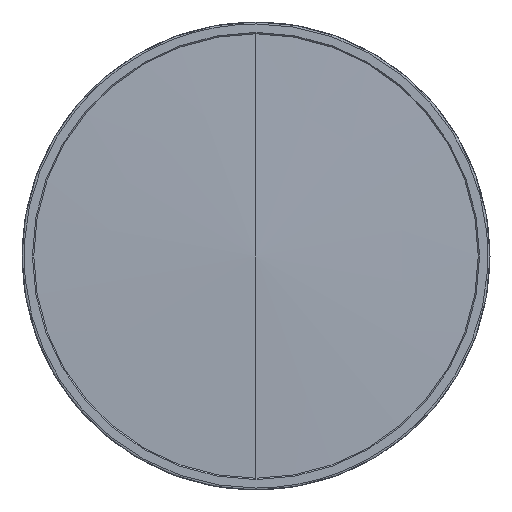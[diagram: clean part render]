
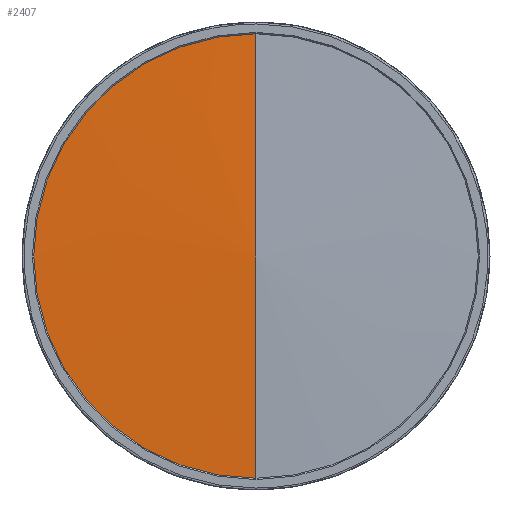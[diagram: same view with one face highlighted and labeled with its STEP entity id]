
A CAD part, left-side view. The second image highlights one B-rep face of the part: STEP entity #2407.
In plain terms, the highlighted conical face has half-angle 88.247 degrees and reference radius 175.434 mm.
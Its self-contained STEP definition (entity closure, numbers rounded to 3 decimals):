
#216 = DIRECTION ( 'NONE',  ( 0.031, 0., 1. ) ) ;
#268 = CARTESIAN_POINT ( 'NONE',  ( 0., 0., 0. ) ) ;
#641 = AXIS2_PLACEMENT_3D ( 'NONE', #6199, #6106, #1032 ) ;
#923 = EDGE_CURVE ( 'NONE', #4828, #6107, #4004, .T. ) ;
#1032 = DIRECTION ( 'NONE',  ( 0., 0., -1. ) ) ;
#1891 = LINE ( 'NONE', #9026, #5574 ) ;
#2069 = DIRECTION ( 'NONE',  ( 1., 0., 0. ) ) ;
#2092 = DIRECTION ( 'NONE',  ( 1., 0., 0. ) ) ;
#2407 = ADVANCED_FACE ( 'NONE', ( #5114 ), #9004, .T. ) ;
#2570 = CARTESIAN_POINT ( 'NONE',  ( 5.203, 0., 170. ) ) ;
#2639 = EDGE_LOOP ( 'NONE', ( #6063, #2711, #7909, #4602 ) ) ;
#2711 = ORIENTED_EDGE ( 'NONE', *, *, #4304, .T. ) ;
#3300 = VECTOR ( 'NONE', #6677, 1000. ) ;
#4004 = LINE ( 'NONE', #8687, #3300 ) ;
#4248 = CARTESIAN_POINT ( 'NONE',  ( 5.203, 0., -170. ) ) ;
#4304 = EDGE_CURVE ( 'NONE', #4828, #6567, #1891, .T. ) ;
#4431 = CIRCLE ( 'NONE', #8730, 170. ) ;
#4602 = ORIENTED_EDGE ( 'NONE', *, *, #7428, .F. ) ;
#4828 = VERTEX_POINT ( 'NONE', #268 ) ;
#4990 = CARTESIAN_POINT ( 'NONE',  ( 5.203, 0., 0. ) ) ;
#5114 = FACE_OUTER_BOUND ( 'NONE', #2639, .T. ) ;
#5270 = CIRCLE ( 'NONE', #7039, 170. ) ;
#5407 = CARTESIAN_POINT ( 'NONE',  ( 5.203, 170., 0. ) ) ;
#5574 = VECTOR ( 'NONE', #216, 1000. ) ;
#6063 = ORIENTED_EDGE ( 'NONE', *, *, #923, .F. ) ;
#6106 = DIRECTION ( 'NONE',  ( 1., 0., 0. ) ) ;
#6107 = VERTEX_POINT ( 'NONE', #4248 ) ;
#6199 = CARTESIAN_POINT ( 'NONE',  ( 5.37, 0., 0. ) ) ;
#6567 = VERTEX_POINT ( 'NONE', #2570 ) ;
#6677 = DIRECTION ( 'NONE',  ( 0.031, 0., -1. ) ) ;
#7039 = AXIS2_PLACEMENT_3D ( 'NONE', #8609, #2092, #7949 ) ;
#7223 = VERTEX_POINT ( 'NONE', #5407 ) ;
#7428 = EDGE_CURVE ( 'NONE', #6107, #7223, #5270, .T. ) ;
#7909 = ORIENTED_EDGE ( 'NONE', *, *, #8436, .F. ) ;
#7949 = DIRECTION ( 'NONE',  ( 0., 0., -1. ) ) ;
#8436 = EDGE_CURVE ( 'NONE', #7223, #6567, #4431, .T. ) ;
#8541 = DIRECTION ( 'NONE',  ( 0., 0., -1. ) ) ;
#8609 = CARTESIAN_POINT ( 'NONE',  ( 5.203, 0., 0. ) ) ;
#8687 = CARTESIAN_POINT ( 'NONE',  ( 5.37, 0., -175.434 ) ) ;
#8730 = AXIS2_PLACEMENT_3D ( 'NONE', #4990, #2069, #8541 ) ;
#9004 = CONICAL_SURFACE ( 'NONE', #641, 175.434, 1.54 ) ;
#9026 = CARTESIAN_POINT ( 'NONE',  ( 5.37, 0., 175.434 ) ) ;
